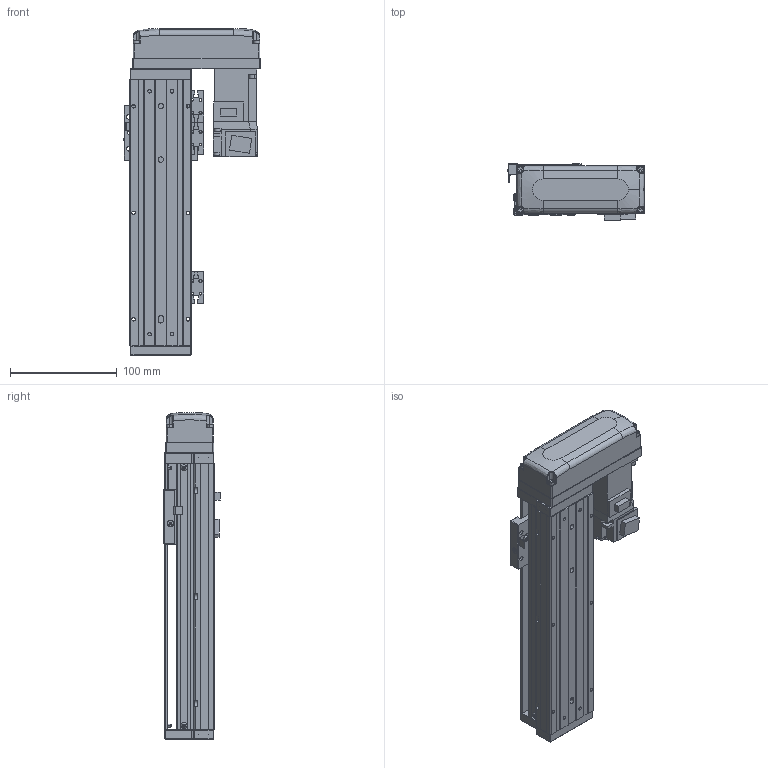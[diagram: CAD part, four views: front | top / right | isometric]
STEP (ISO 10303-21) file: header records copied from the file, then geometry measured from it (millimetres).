
FILE_DESCRIPTION (( 'STEP AP203' ), '1' );
FILE_NAME ('KTHA50-150-BL-M10-C4L.step', '2022-03-19T07:05:39', ( '微软用户' ), ( '微软中国' ), 'SwSTEP 2.0', 'SolidWorks 2020', '' );
FILE_SCHEMA (( 'CONFIG_CONTROL_DESIGN' ));
Length unit declared in the file: millimetre
Products named in the file (18): KTHA50-004; GBT 70.1-M4×12; GBT 70.1-M3×15; KTHA50-005; CTHA60-016; KTHA50-150-BL-M10-C4L; GB¨uT 70.2-M3¡Á6_M3¡Á6; CTHA60-021; EE_SX911P_R; GBT 70.3-M3℅6; GBT77-2000 M3×3; HG-KR13（三菱）; KTHA50-001_250; GBT 70.1-M3℅6; CTHA50-015-2_CTHA60-015-2; KTHA50-002; CTHA60-017; CTHA60-033
Assembly tree (53 placements, depth 2):
  KTHA50-150-BL-M10-C4L
    KTHA50-001_250
    KTHA50-002
    KTHA50-004
    KTHA50-005
    GB¨uT 70.2-M3¡Á6_M3¡Á6  x6
    EE_SX911P_R  x3
    GBT77-2000 M3×3  x6
    GBT 70.1-M3℅6  x6
    CTHA60-017  x3
    GBT 70.1-M4×12  x10
    CTHA60-016  x2
    CTHA60-021  x2
    GBT 70.3-M3℅6  x4
    HG-KR13（三菱）
    CTHA50-015-2_CTHA60-015-2
    CTHA60-033
    GBT 70.1-M3×15  x4
Bounding box: 128.4 x 53.3 x 307 mm (x, y, z)
Volume: 791613.1 mm3; surface area: 195622 mm2
Topology: 56 solids, 56 shells, 2203 faces, 5183 edges, 3172 vertices
Faces by surface type: plane 1228, cylinder 532, cone 301, torus 100, bspline 26, sphere 16
Entity records: 36297 total; most frequent: CARTESIAN_POINT 6898, DIRECTION 5635, ORIENTED_EDGE 5378, EDGE_CURVE 2689, AXIS2_PLACEMENT_3D 1925, VECTOR 1785, LINE 1785, VERTEX_POINT 1686
